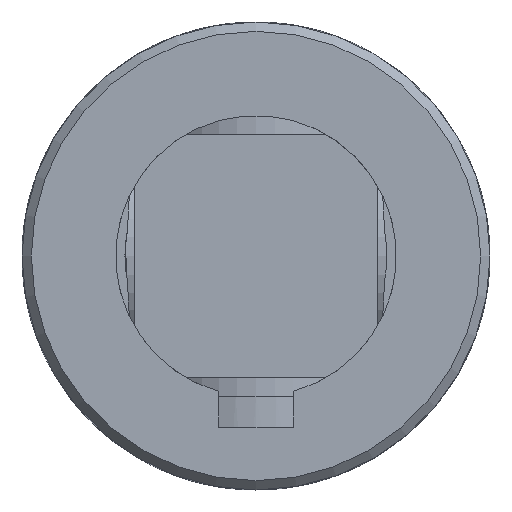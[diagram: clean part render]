
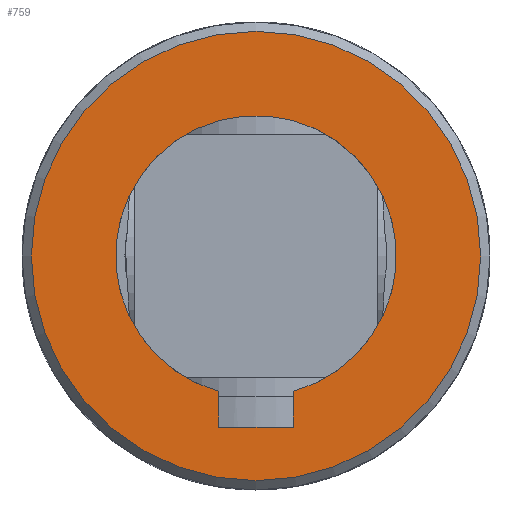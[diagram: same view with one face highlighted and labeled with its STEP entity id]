
A CAD part, front view. The second image highlights one B-rep face of the part: STEP entity #759.
In plain terms, the highlighted planar face has unit normal (0, -1, 0).
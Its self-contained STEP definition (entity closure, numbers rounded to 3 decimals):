
#88=LINE('',#1211,#119);
#90=LINE('',#1227,#121);
#92=LINE('',#1231,#123);
#119=VECTOR('',#956,3.843);
#121=VECTOR('',#960,8.);
#123=VECTOR('',#966,3.843);
#151=PLANE('',#828);
#176=FACE_BOUND('',#269,.T.);
#208=FACE_OUTER_BOUND('',#268,.T.);
#268=EDGE_LOOP('',(#607));
#269=EDGE_LOOP('',(#608,#609,#610,#611));
#308=CIRCLE('',#810,15.);
#316=CIRCLE('',#826,24.);
#353=VERTEX_POINT('',#1146);
#354=VERTEX_POINT('',#1148);
#364=VERTEX_POINT('',#1210);
#366=VERTEX_POINT('',#1226);
#369=VERTEX_POINT('',#1254);
#434=EDGE_CURVE('',#354,#353,#308,.T.);
#447=EDGE_CURVE('',#364,#354,#88,.T.);
#450=EDGE_CURVE('',#366,#364,#90,.T.);
#453=EDGE_CURVE('',#353,#366,#92,.T.);
#458=EDGE_CURVE('',#369,#369,#316,.T.);
#607=ORIENTED_EDGE('',*,*,#458,.F.);
#608=ORIENTED_EDGE('',*,*,#447,.T.);
#609=ORIENTED_EDGE('',*,*,#434,.T.);
#610=ORIENTED_EDGE('',*,*,#453,.T.);
#611=ORIENTED_EDGE('',*,*,#450,.T.);
#759=ADVANCED_FACE('',(#208,#176),#151,.F.);
#810=AXIS2_PLACEMENT_3D('',#1149,#937,#938);
#826=AXIS2_PLACEMENT_3D('',#1255,#975,#976);
#828=AXIS2_PLACEMENT_3D('',#1463,#983,#984);
#937=DIRECTION('center_axis',(0.,1.,0.));
#938=DIRECTION('ref_axis',(-0.267,0.,0.964));
#956=DIRECTION('',(0.,0.,1.));
#960=DIRECTION('',(-1.,0.,0.));
#966=DIRECTION('',(0.,0.,-1.));
#975=DIRECTION('center_axis',(0.,1.,0.));
#976=DIRECTION('ref_axis',(1.,0.,0.));
#983=DIRECTION('center_axis',(0.,1.,0.));
#984=DIRECTION('ref_axis',(0.,0.,1.));
#1146=CARTESIAN_POINT('',(4.,-78.5,-14.457));
#1148=CARTESIAN_POINT('',(-4.,-78.5,-14.457));
#1149=CARTESIAN_POINT('Origin',(0.,-78.5,0.));
#1210=CARTESIAN_POINT('',(-4.,-78.5,-18.3));
#1211=CARTESIAN_POINT('',(-4.,-78.5,-9.15));
#1226=CARTESIAN_POINT('',(4.,-78.5,-18.3));
#1227=CARTESIAN_POINT('',(2.,-78.5,-18.3));
#1231=CARTESIAN_POINT('',(4.,-78.5,-7.228));
#1254=CARTESIAN_POINT('',(-24.,-78.5,0.));
#1255=CARTESIAN_POINT('Origin',(0.,-78.5,0.));
#1463=CARTESIAN_POINT('Origin',(0.,-78.5,0.));
